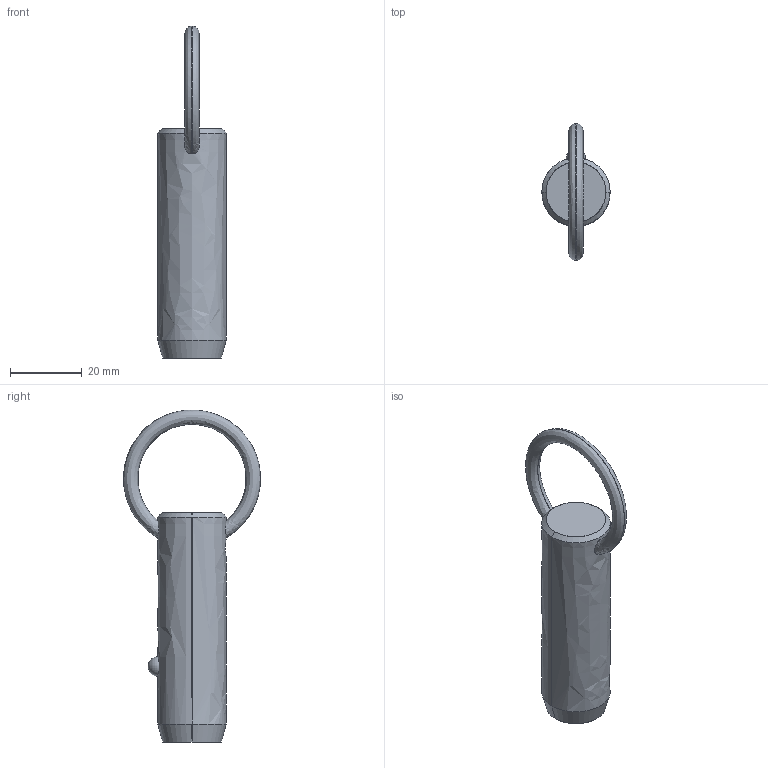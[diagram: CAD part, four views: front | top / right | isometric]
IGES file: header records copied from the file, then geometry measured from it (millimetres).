
Start section: SolidWorks IGES file using analytic representation for surfaces
Global section: file name: C:\Users\liam_\OneDrive\Documents\WORK\Work for WixRoyd\Job Files\J-00019 - Matt Davis CAD Checking\04. CAD Drawings\automotion20190605\P1250.2_v2\P1250.2_v2_20190729_IGES\P1250.075-120.igs; native system: SolidWorks 2017; preprocessor: SolidWorks 2017; author: liam_; date: 190729.234705; units: millimetre
Bounding box: 19 x 38.07 x 92.3 mm (x, y, z)
Surface area: 5335.1 mm2 (no closed solid volume)
Topology: 0 solids, 0 shells, 12 faces, 294 edges, 292 vertices
Faces by surface type: revolution 8, bspline 4
